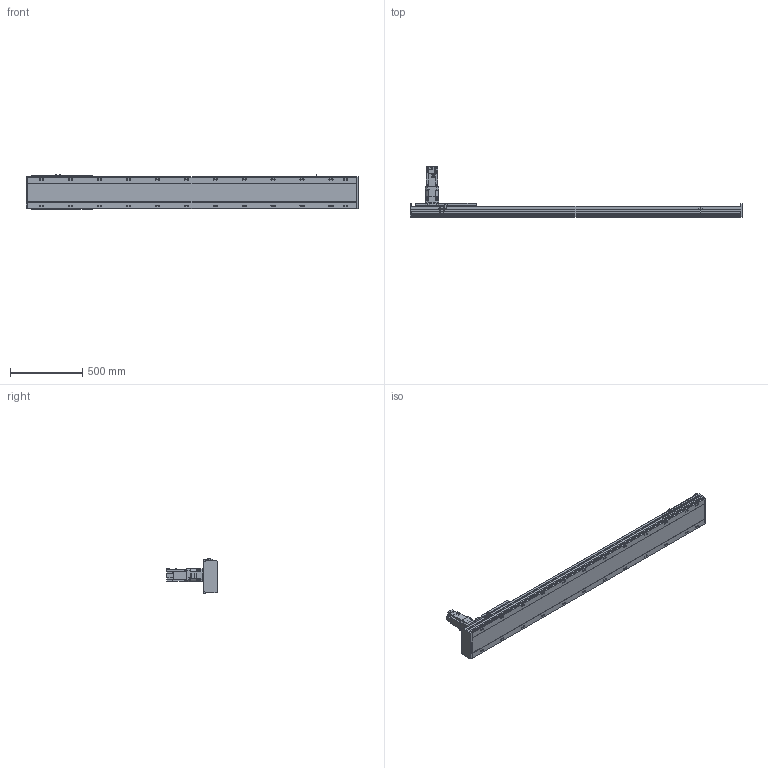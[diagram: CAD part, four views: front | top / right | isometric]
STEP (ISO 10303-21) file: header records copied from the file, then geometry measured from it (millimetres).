
FILE_DESCRIPTION(/* description */ ('STEP AP214'),/* implementation_level */ '2;1');
FILE_NAME(/* name */ 'SHS22A-L13-S1800-BC-T75-C1-N(0)',/* time_stamp */ '2022-06-15T02:26:53+02:00',/* author */ ('License CC BY-ND 4.0'),/* organization */ ('CADENAS'),/* preprocessor_version */ 'ST-DEVELOPER v18.102',/* originating_system */ 'PARTsolutions',/* authorisation */ ' ');
FILE_SCHEMA (('AUTOMOTIVE_DESIGN {1 0 10303 214 3 1 1}'));
Length unit declared in the file: millimetre
Products named in the file (7): SHS22A-L13-S1800-BC-T75-C1-N(0); PSC140-sensor; SHS22A-S1800_body2; T75-p1; SHS22A-S1800_body3; SHS22A-S1800_slider; SHS22A-L13-S1800-BC-T75-C1(0)_body
Assembly tree (13 placements, depth 2):
  SHS22A-L13-S1800-BC-T75-C1-N(0)
    PSC140-sensor  x3
    SHS22A-S1800_body2  x6
    T75-p1
    SHS22A-S1800_body3
    SHS22A-S1800_slider
    SHS22A-L13-S1800-BC-T75-C1(0)_body
Bounding box: 2294 x 350.8 x 238.4 mm (x, y, z)
Volume: 26286976.3 mm3; surface area: 2765200.8 mm2
Topology: 13 solids, 13 shells, 1845 faces, 4751 edges, 3112 vertices
Faces by surface type: plane 1328, cylinder 419, cone 89, torus 9
Full cylindrical faces by diameter (mm): 2.8 x3, 4.2 x2, 4.6 x3, 4.917 x4, 5 x4, 5.6 x24, 6 x31, 6.6 x24, 6.647 x8, 6.8 x9, 7.75 x6, 8 x3, 8.376 x24, 8.5 x24, 10 x4, 11 x4, 12 x24, 14 x24, 22 x1, 24.1 x1, 28 x1, 28.2 x1, 28.8 x1, 48.542 x1, 68 x1, 70 x1, 78 x1, 80 x2
Entity records: 30347 total; most frequent: CARTESIAN_POINT 5405, DIRECTION 5135, ORIENTED_EDGE 4692, EDGE_CURVE 2346, AXIS2_PLACEMENT_3D 1784, VERTEX_POINT 1678, LINE 1567, VECTOR 1567
